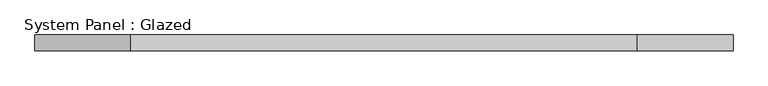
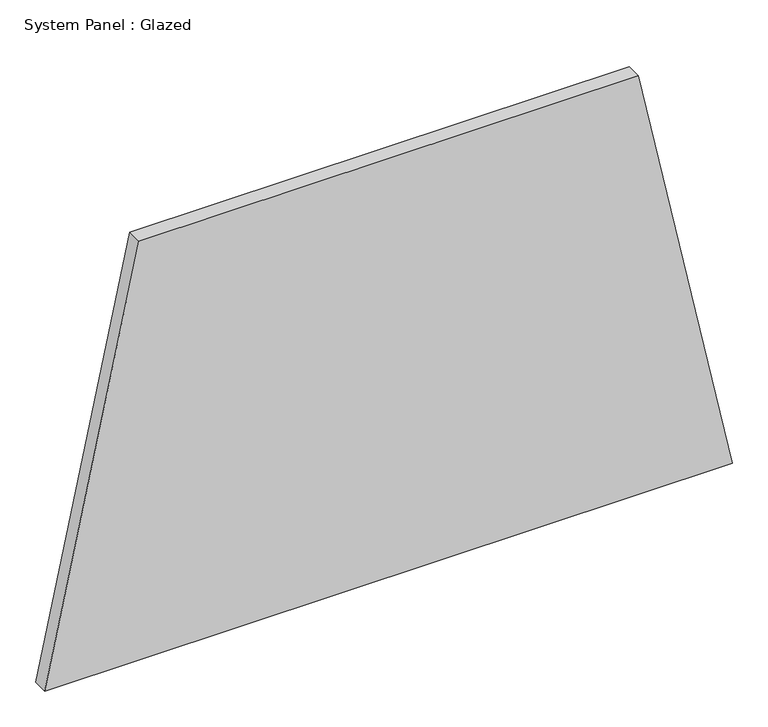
"""IFC4 building model written with IfcOpenShell, lengths in millimetres: plate geometry, System Panel : Glazed."""

from ifc_helpers import new_model, si_unit, frame, origin, place, context, project, spatial, polyline, outline, extrude, source, transform, mapped, element, save


def system_panel_glazed_99547904(model_context):
    return source(origin(), model_context, "Body", "SweptSolid", [
        extrude(outline(polyline([(0.0, -559.0096266), (0.0, 559.0096266), (719.8713464, 405.630352), (719.8713464, -405.630352), (0.0, -559.0096266)])), frame((0.0, 19.05, 0.0), z_axis=(0.0, 1.0, 0.0), x_axis=(0.0, 0.0, 1.0)), (0.0, 0.0, 1.0), 25.4),
    ])


if __name__ == "__main__":
    model = new_model("IFC4")
    model_context = context("Model", 3, world=origin())
    ifc_project = project(units=[si_unit("LENGTHUNIT", "METRE", prefix="MILLI")], contexts=[model_context])
    site = spatial("IfcSite", under=ifc_project)
    building = spatial("IfcBuilding", under=site)
    placement = place(None, origin())
    system_panel_glazed_shape = system_panel_glazed_99547904(model_context)
    element("IfcPlate", 1, ObjectType="System Panel : Glazed", at=placement, inside=building, context=model_context, shape_type="MappedRepresentation", body=[
        mapped(system_panel_glazed_shape, transform((0.0, 0.0, 0.0), x_axis=(1.0, 0.0, 0.0), y_axis=(0.0, 1.0, 0.0), z_axis=(0.0, 0.0, 1.0))),
    ])
    save(model, "model.ifc")
